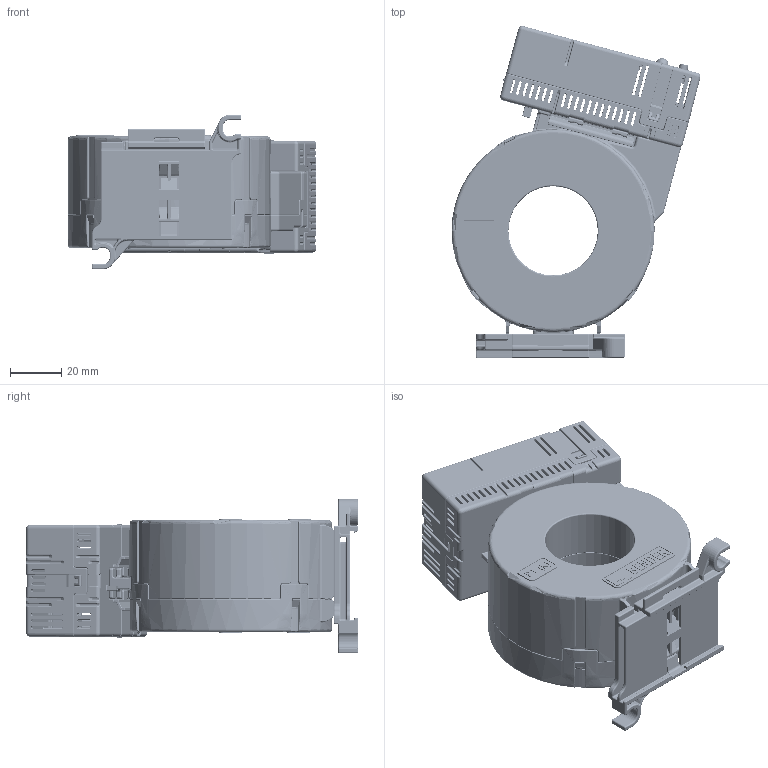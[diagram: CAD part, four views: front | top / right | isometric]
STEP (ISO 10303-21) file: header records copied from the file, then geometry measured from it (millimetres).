
FILE_DESCRIPTION (( 'STEP AP214' ), '1' );
FILE_NAME ('CTUB10x-CTBC35x.STEP', '2019-04-12T08:20:24', ( 'Administrator' ), ( '' ), 'SwSTEP 2.0', 'SolidWorks 2019', '' );
FILE_SCHEMA (( 'AUTOMOTIVE_DESIGN' ));
Length unit declared in the file: millimetre
Products named in the file (1): CTUB10x-CTBC35x
Bounding box: 97.44 x 129.92 x 60.5 mm (x, y, z)
Volume: 74301 mm3; surface area: 104060.6 mm2
Topology: 6 solids, 10 shells, 9752 faces, 24360 edges, 14450 vertices
Faces by surface type: cylinder 2729, plane 2713, bspline 2553, torus 1017, cone 405, sphere 335
Entity records: 467094 total; most frequent: CARTESIAN_POINT 147984, ORIENTED_EDGE 47890, DIRECTION 39629, EDGE_CURVE 23945, VERTEX_POINT 14424, AXIS2_PLACEMENT_3D 14367, VECTOR 10895, LINE 10895
